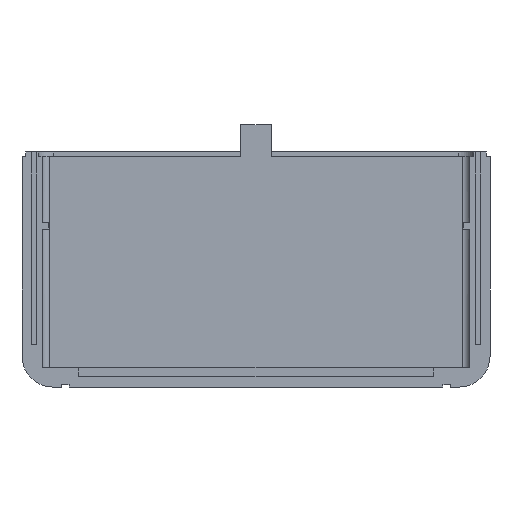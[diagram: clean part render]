
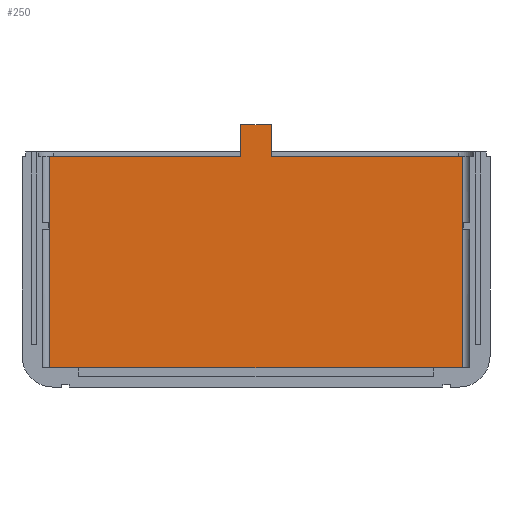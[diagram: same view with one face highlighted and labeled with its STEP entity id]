
A CAD part, front view. The second image highlights one B-rep face of the part: STEP entity #250.
In plain terms, the highlighted planar face has unit normal (0, -1, 0).
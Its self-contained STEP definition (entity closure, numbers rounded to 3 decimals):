
#40 = VERTEX_POINT ( 'NONE', #836 ) ;
#78 = EDGE_LOOP ( 'NONE', ( #467, #745, #883, #948, #1318, #1507, #2045, #2401 ) ) ;
#128 = VECTOR ( 'NONE', #1811, 1000. ) ;
#230 = AXIS2_PLACEMENT_3D ( 'NONE', #889, #2255, #2244 ) ;
#231 = VERTEX_POINT ( 'NONE', #697 ) ;
#250 = ADVANCED_FACE ( 'NONE', ( #434 ), #2292, .T. ) ;
#253 = CARTESIAN_POINT ( 'NONE',  ( 26.75, 5., -12.75 ) ) ;
#266 = LINE ( 'NONE', #1683, #1238 ) ;
#378 = CARTESIAN_POINT ( 'NONE',  ( -2., 5., 18.75 ) ) ;
#413 = LINE ( 'NONE', #1984, #2341 ) ;
#434 = FACE_OUTER_BOUND ( 'NONE', #78, .T. ) ;
#467 = ORIENTED_EDGE ( 'NONE', *, *, #1556, .T. ) ;
#519 = DIRECTION ( 'NONE',  ( 1., 0., 0. ) ) ;
#521 = LINE ( 'NONE', #1121, #649 ) ;
#559 = DIRECTION ( 'NONE',  ( 1., 0., 0. ) ) ;
#604 = DIRECTION ( 'NONE',  ( 0., 0., -1. ) ) ;
#636 = LINE ( 'NONE', #2383, #128 ) ;
#649 = VECTOR ( 'NONE', #1310, 1000. ) ;
#656 = EDGE_CURVE ( 'NONE', #1299, #231, #636, .T. ) ;
#669 = VECTOR ( 'NONE', #1568, 1000. ) ;
#697 = CARTESIAN_POINT ( 'NONE',  ( -26.75, 5., 14.65 ) ) ;
#745 = ORIENTED_EDGE ( 'NONE', *, *, #1495, .T. ) ;
#771 = EDGE_CURVE ( 'NONE', #2370, #1299, #266, .T. ) ;
#832 = VECTOR ( 'NONE', #2191, 1000. ) ;
#836 = CARTESIAN_POINT ( 'NONE',  ( 26.75, 5., 14.65 ) ) ;
#883 = ORIENTED_EDGE ( 'NONE', *, *, #1610, .T. ) ;
#889 = CARTESIAN_POINT ( 'NONE',  ( 0., 5., 0. ) ) ;
#910 = CARTESIAN_POINT ( 'NONE',  ( 2., 5., 14.65 ) ) ;
#948 = ORIENTED_EDGE ( 'NONE', *, *, #1356, .F. ) ;
#980 = CARTESIAN_POINT ( 'NONE',  ( -2., 5., 14.65 ) ) ;
#1121 = CARTESIAN_POINT ( 'NONE',  ( 0., 5., 14.65 ) ) ;
#1154 = VERTEX_POINT ( 'NONE', #1721 ) ;
#1222 = CARTESIAN_POINT ( 'NONE',  ( 26.75, 5., 0. ) ) ;
#1238 = VECTOR ( 'NONE', #604, 1000. ) ;
#1290 = CARTESIAN_POINT ( 'NONE',  ( -27.75, 5., -12.75 ) ) ;
#1299 = VERTEX_POINT ( 'NONE', #980 ) ;
#1310 = DIRECTION ( 'NONE',  ( -1., 0., 0. ) ) ;
#1318 = ORIENTED_EDGE ( 'NONE', *, *, #1637, .F. ) ;
#1347 = LINE ( 'NONE', #1222, #832 ) ;
#1356 = EDGE_CURVE ( 'NONE', #1154, #1830, #413, .T. ) ;
#1446 = LINE ( 'NONE', #378, #2396 ) ;
#1486 = VERTEX_POINT ( 'NONE', #253 ) ;
#1495 = EDGE_CURVE ( 'NONE', #1486, #40, #1347, .T. ) ;
#1507 = ORIENTED_EDGE ( 'NONE', *, *, #771, .T. ) ;
#1556 = EDGE_CURVE ( 'NONE', #2082, #1486, #2312, .T. ) ;
#1568 = DIRECTION ( 'NONE',  ( 0., 0., -1. ) ) ;
#1610 = EDGE_CURVE ( 'NONE', #40, #1830, #521, .T. ) ;
#1637 = EDGE_CURVE ( 'NONE', #2370, #1154, #1446, .T. ) ;
#1683 = CARTESIAN_POINT ( 'NONE',  ( -2., 5., 14.65 ) ) ;
#1711 = EDGE_CURVE ( 'NONE', #231, #2082, #2337, .T. ) ;
#1721 = CARTESIAN_POINT ( 'NONE',  ( 2., 5., 18.75 ) ) ;
#1811 = DIRECTION ( 'NONE',  ( -1., 0., 0. ) ) ;
#1830 = VERTEX_POINT ( 'NONE', #910 ) ;
#1984 = CARTESIAN_POINT ( 'NONE',  ( 2., 5., 14.65 ) ) ;
#2045 = ORIENTED_EDGE ( 'NONE', *, *, #656, .T. ) ;
#2082 = VERTEX_POINT ( 'NONE', #2164 ) ;
#2099 = CARTESIAN_POINT ( 'NONE',  ( -2., 5., 18.75 ) ) ;
#2164 = CARTESIAN_POINT ( 'NONE',  ( -26.75, 5., -12.75 ) ) ;
#2168 = DIRECTION ( 'NONE',  ( 0., 0., -1. ) ) ;
#2191 = DIRECTION ( 'NONE',  ( 0., 0., 1. ) ) ;
#2192 = VECTOR ( 'NONE', #519, 1000. ) ;
#2244 = DIRECTION ( 'NONE',  ( 0., 0., -1. ) ) ;
#2255 = DIRECTION ( 'NONE',  ( 0., -1., 0. ) ) ;
#2292 = PLANE ( 'NONE',  #230 ) ;
#2312 = LINE ( 'NONE', #1290, #2192 ) ;
#2331 = CARTESIAN_POINT ( 'NONE',  ( -26.75, 5., 0. ) ) ;
#2337 = LINE ( 'NONE', #2331, #669 ) ;
#2341 = VECTOR ( 'NONE', #2168, 1000. ) ;
#2370 = VERTEX_POINT ( 'NONE', #2099 ) ;
#2383 = CARTESIAN_POINT ( 'NONE',  ( 0., 5., 14.65 ) ) ;
#2396 = VECTOR ( 'NONE', #559, 1000. ) ;
#2401 = ORIENTED_EDGE ( 'NONE', *, *, #1711, .T. ) ;
